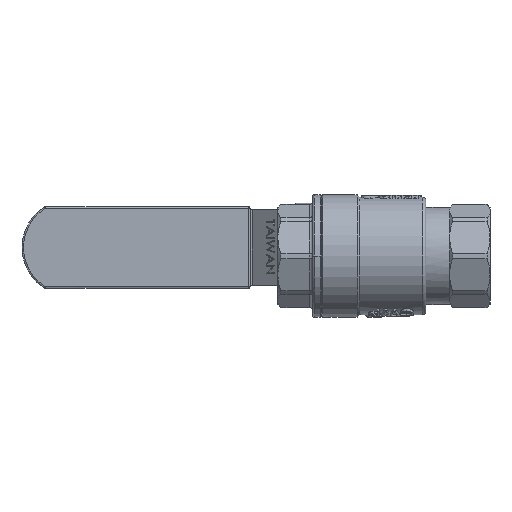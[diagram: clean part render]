
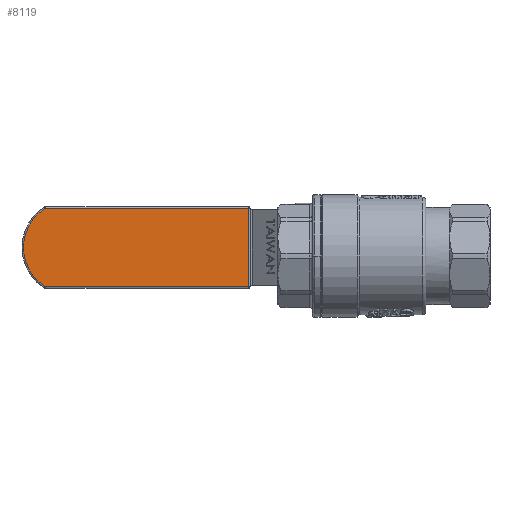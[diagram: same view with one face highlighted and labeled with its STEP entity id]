
A CAD part, front view. The second image highlights one B-rep face of the part: STEP entity #8119.
In plain terms, the highlighted planar face has unit normal (0, -1, 0).
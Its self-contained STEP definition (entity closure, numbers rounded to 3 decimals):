
#166 = LINE ( 'NONE', #50772, #98082 ) ;
#6663 = EDGE_CURVE ( 'NONE', #67427, #8681, #166, .T. ) ;
#6726 = CARTESIAN_POINT ( 'NONE',  ( 44.703, 21.4, 13.15 ) ) ;
#8119 = ADVANCED_FACE ( 'NONE', ( #111404 ), #34143, .F. ) ;
#8681 = VERTEX_POINT ( 'NONE', #65059 ) ;
#15243 = LINE ( 'NONE', #6726, #29988 ) ;
#20852 = ORIENTED_EDGE ( 'NONE', *, *, #61977, .T. ) ;
#23317 = EDGE_CURVE ( 'NONE', #31914, #67427, #15243, .T. ) ;
#25856 = CARTESIAN_POINT ( 'NONE',  ( 44.703, 21.4, 12.65 ) ) ;
#27688 = CARTESIAN_POINT ( 'NONE',  ( 44.703, 21.4, -13.15 ) ) ;
#28273 = LINE ( 'NONE', #27688, #99559 ) ;
#29435 = DIRECTION ( 'NONE',  ( 0., 0., 1. ) ) ;
#29988 = VECTOR ( 'NONE', #45282, 1000. ) ;
#31914 = VERTEX_POINT ( 'NONE', #51901 ) ;
#32605 = ORIENTED_EDGE ( 'NONE', *, *, #54207, .T. ) ;
#34143 = PLANE ( 'NONE',  #120506 ) ;
#39542 = ORIENTED_EDGE ( 'NONE', *, *, #6663, .T. ) ;
#45218 = CIRCLE ( 'NONE', #90466, 15.5 ) ;
#45282 = DIRECTION ( 'NONE',  ( -1., 0., 0. ) ) ;
#50772 = CARTESIAN_POINT ( 'NONE',  ( 45.203, 21.4, 12.65 ) ) ;
#51901 = CARTESIAN_POINT ( 'NONE',  ( 113.205, 21.4, 13.15 ) ) ;
#54207 = EDGE_CURVE ( 'NONE', #8681, #113655, #28273, .T. ) ;
#56419 = CARTESIAN_POINT ( 'NONE',  ( 105., 21.4, 0. ) ) ;
#61977 = EDGE_CURVE ( 'NONE', #113655, #31914, #45218, .T. ) ;
#65059 = CARTESIAN_POINT ( 'NONE',  ( 45.203, 21.4, -13.15 ) ) ;
#67427 = VERTEX_POINT ( 'NONE', #116119 ) ;
#68842 = CARTESIAN_POINT ( 'NONE',  ( 113.205, 21.4, -13.15 ) ) ;
#89528 = ORIENTED_EDGE ( 'NONE', *, *, #23317, .T. ) ;
#90466 = AXIS2_PLACEMENT_3D ( 'NONE', #56419, #122802, #29435 ) ;
#90902 = EDGE_LOOP ( 'NONE', ( #89528, #39542, #32605, #20852 ) ) ;
#98082 = VECTOR ( 'NONE', #117131, 1000. ) ;
#99559 = VECTOR ( 'NONE', #103987, 1000. ) ;
#103987 = DIRECTION ( 'NONE',  ( 1., 0., 0. ) ) ;
#110450 = DIRECTION ( 'NONE',  ( 0., 1., 0. ) ) ;
#110866 = DIRECTION ( 'NONE',  ( 0., 0., 1. ) ) ;
#111404 = FACE_OUTER_BOUND ( 'NONE', #90902, .T. ) ;
#113655 = VERTEX_POINT ( 'NONE', #68842 ) ;
#116119 = CARTESIAN_POINT ( 'NONE',  ( 45.203, 21.4, 13.15 ) ) ;
#117131 = DIRECTION ( 'NONE',  ( 0., 0., -1. ) ) ;
#120506 = AXIS2_PLACEMENT_3D ( 'NONE', #25856, #110450, #110866 ) ;
#122802 = DIRECTION ( 'NONE',  ( 0., -1., 0. ) ) ;
